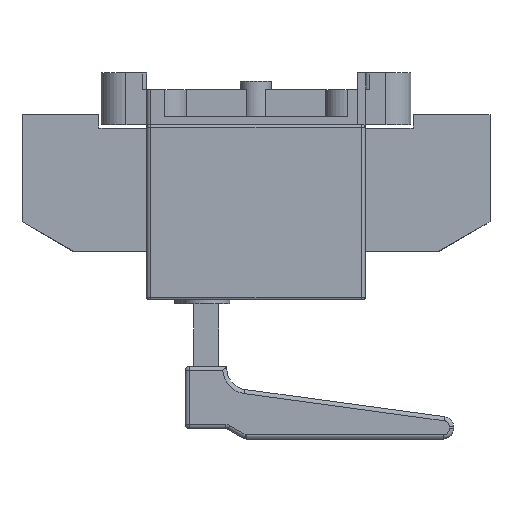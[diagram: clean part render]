
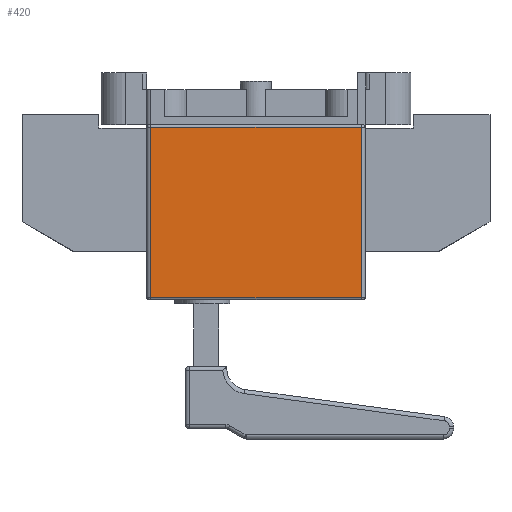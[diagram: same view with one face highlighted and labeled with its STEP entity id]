
A CAD part, left-side view. The second image highlights one B-rep face of the part: STEP entity #420.
In plain terms, the highlighted planar face has unit normal (-1, 0, 0).
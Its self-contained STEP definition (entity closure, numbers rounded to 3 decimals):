
#420=ADVANCED_FACE('',(#1175),#849,.F.);
#849=PLANE('',#8892);
#1175=FACE_OUTER_BOUND('',#1632,.T.);
#1632=EDGE_LOOP('',(#2884,#2885,#2886,#2887));
#2884=ORIENTED_EDGE('',*,*,#5957,.T.);
#2885=ORIENTED_EDGE('',*,*,#5958,.T.);
#2886=ORIENTED_EDGE('',*,*,#5954,.F.);
#2887=ORIENTED_EDGE('',*,*,#5959,.T.);
#5078=VERTEX_POINT('',#12636);
#5079=VERTEX_POINT('',#12637);
#5080=VERTEX_POINT('',#12642);
#5081=VERTEX_POINT('',#12643);
#5954=EDGE_CURVE('',#5078,#5079,#7060,.T.);
#5957=EDGE_CURVE('',#5080,#5081,#7061,.T.);
#5958=EDGE_CURVE('',#5081,#5079,#7062,.T.);
#5959=EDGE_CURVE('',#5078,#5080,#7063,.T.);
#7060=LINE('',#12635,#7993);
#7061=LINE('',#12641,#7994);
#7062=LINE('',#12644,#7995);
#7063=LINE('',#12645,#7996);
#7993=VECTOR('',#10081,1.);
#7994=VECTOR('',#10088,1.);
#7995=VECTOR('',#10089,1.);
#7996=VECTOR('',#10090,1.);
#8892=AXIS2_PLACEMENT_3D('',#12646,#10091,#10092);
#10081=DIRECTION('',(0.,0.,1.));
#10088=DIRECTION('',(0.,0.,1.));
#10089=DIRECTION('',(0.,1.,0.));
#10090=DIRECTION('',(0.,-1.,0.));
#10091=DIRECTION('',(1.,0.,0.));
#10092=DIRECTION('',(0.,1.,0.));
#12635=CARTESIAN_POINT('',(-197.5,50.5,-84.));
#12636=CARTESIAN_POINT('',(-197.5,50.5,-83.));
#12637=CARTESIAN_POINT('',(-197.5,50.5,-1.));
#12641=CARTESIAN_POINT('',(-197.5,-50.5,-84.));
#12642=CARTESIAN_POINT('',(-197.5,-50.5,-83.));
#12643=CARTESIAN_POINT('',(-197.5,-50.5,-1.));
#12644=CARTESIAN_POINT('',(-197.5,-50.5,-1.));
#12645=CARTESIAN_POINT('',(-197.5,-50.5,-83.));
#12646=CARTESIAN_POINT('',(-197.5,-50.5,-84.));
